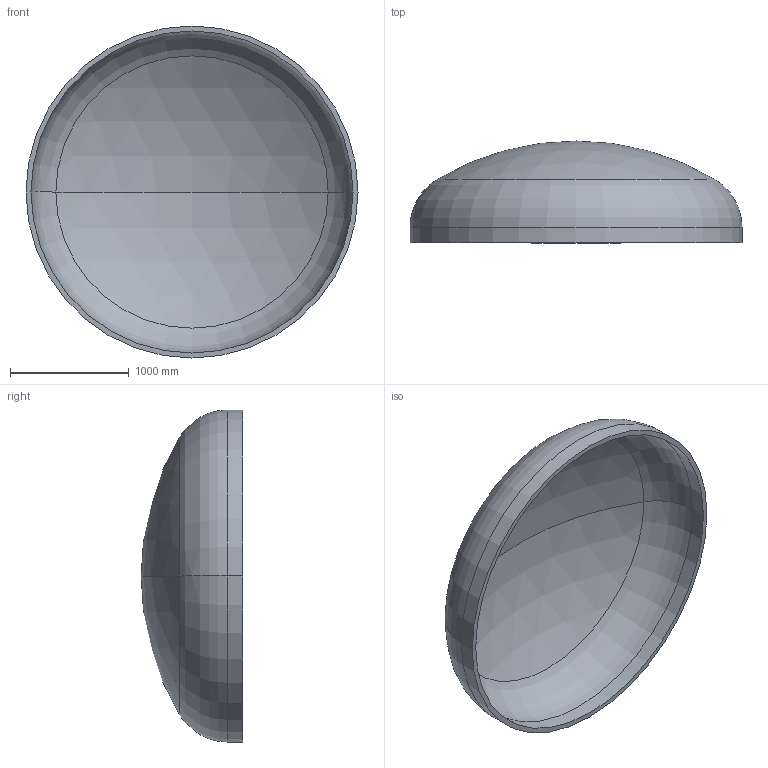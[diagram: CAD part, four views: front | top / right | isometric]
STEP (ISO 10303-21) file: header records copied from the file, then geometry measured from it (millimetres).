
FILE_DESCRIPTION (( 'STEP AP203' ), '1' );
FILE_NAME ('DIN 28013 Korbbogenform_-_Boden DIN 28013 - 2800 x 130 - I - s=42.step', '2016-07-01T16:59:09', ( '' ), ( '' ), 'SwSTEP 2.0', 'SolidWorks 2013', '' );
FILE_SCHEMA (( 'CONFIG_CONTROL_DESIGN' ));
Length unit declared in the file: millimetre
Products named in the file (1): DIN 28013 Korbbogenform_-_Boden DIN 28013 - 2800 x 130 - I - s=42
Bounding box: 2800 x 858 x 2800 mm (x, y, z)
Volume: 398269369.5 mm3; surface area: 19332805.6 mm2
Topology: 1 solids, 1 shells, 13 faces, 24 edges, 14 vertices
Faces by surface type: torus 4, cylinder 4, sphere 4, plane 1
Entity records: 407 total; most frequent: DIRECTION 72, CARTESIAN_POINT 52, ORIENTED_EDGE 48, AXIS2_PLACEMENT_3D 34, EDGE_CURVE 24, CIRCLE 20, EDGE_LOOP 14, VERTEX_POINT 14
